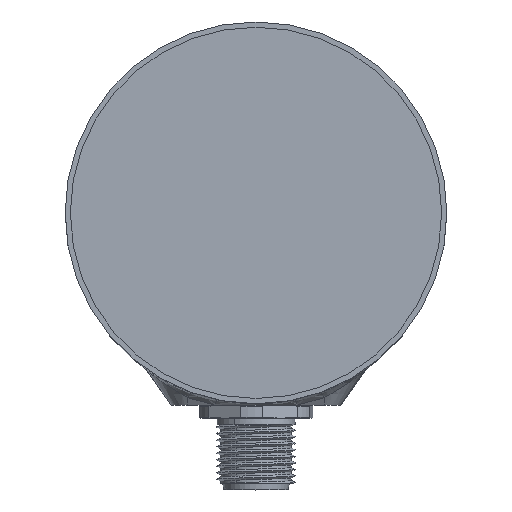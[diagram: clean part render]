
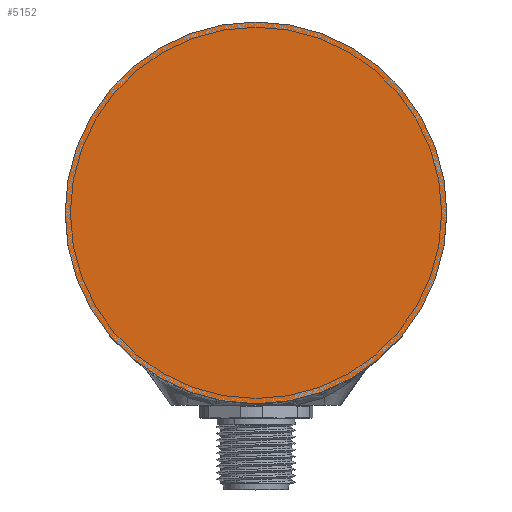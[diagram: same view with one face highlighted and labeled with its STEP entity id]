
A CAD part, top view. The second image highlights one B-rep face of the part: STEP entity #5152.
In plain terms, the highlighted planar face has unit normal (0, 0, 1).
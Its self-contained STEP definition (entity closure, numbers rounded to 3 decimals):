
#405 = DIRECTION ( 'NONE',  ( 0., 0., 1. ) ) ;
#675 = CIRCLE ( 'NONE', #7218, 29.3 ) ;
#791 = AXIS2_PLACEMENT_3D ( 'NONE', #5284, #405, #4723 ) ;
#2030 = CARTESIAN_POINT ( 'NONE',  ( 0., 0., 43.2 ) ) ;
#2647 = DIRECTION ( 'NONE',  ( 1., 0., 0. ) ) ;
#2875 = DIRECTION ( 'NONE',  ( 0., 0., 1. ) ) ;
#3084 = CARTESIAN_POINT ( 'NONE',  ( 29.3, 0., 43.2 ) ) ;
#3115 = EDGE_LOOP ( 'NONE', ( #4237, #6914 ) ) ;
#3727 = VERTEX_POINT ( 'NONE', #3084 ) ;
#4105 = PLANE ( 'NONE',  #791 ) ;
#4237 = ORIENTED_EDGE ( 'NONE', *, *, #4945, .T. ) ;
#4637 = CIRCLE ( 'NONE', #7545, 29.3 ) ;
#4723 = DIRECTION ( 'NONE',  ( 1., 0., 0. ) ) ;
#4945 = EDGE_CURVE ( 'NONE', #3727, #7880, #675, .T. ) ;
#5152 = ADVANCED_FACE ( 'NONE', ( #7575 ), #4105, .T. ) ;
#5284 = CARTESIAN_POINT ( 'NONE',  ( 0., 0., 43.2 ) ) ;
#5812 = CARTESIAN_POINT ( 'NONE',  ( -29.3, 0., 43.2 ) ) ;
#5820 = EDGE_CURVE ( 'NONE', #7880, #3727, #4637, .T. ) ;
#6358 = DIRECTION ( 'NONE',  ( 0., 0., 1. ) ) ;
#6571 = CARTESIAN_POINT ( 'NONE',  ( 0., 0., 43.2 ) ) ;
#6914 = ORIENTED_EDGE ( 'NONE', *, *, #5820, .T. ) ;
#7200 = DIRECTION ( 'NONE',  ( 1., 0., 0. ) ) ;
#7218 = AXIS2_PLACEMENT_3D ( 'NONE', #2030, #6358, #2647 ) ;
#7545 = AXIS2_PLACEMENT_3D ( 'NONE', #6571, #2875, #7200 ) ;
#7575 = FACE_OUTER_BOUND ( 'NONE', #3115, .T. ) ;
#7880 = VERTEX_POINT ( 'NONE', #5812 ) ;
